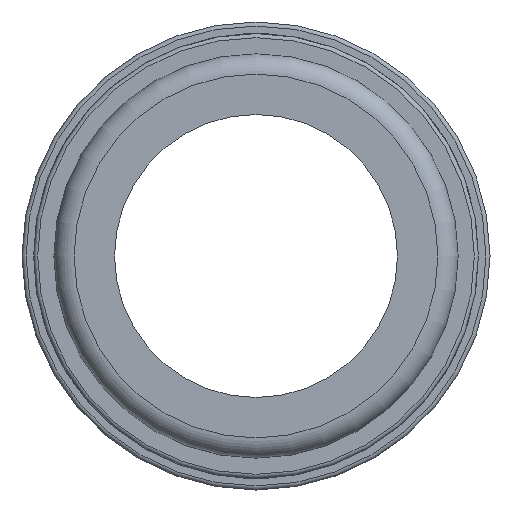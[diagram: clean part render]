
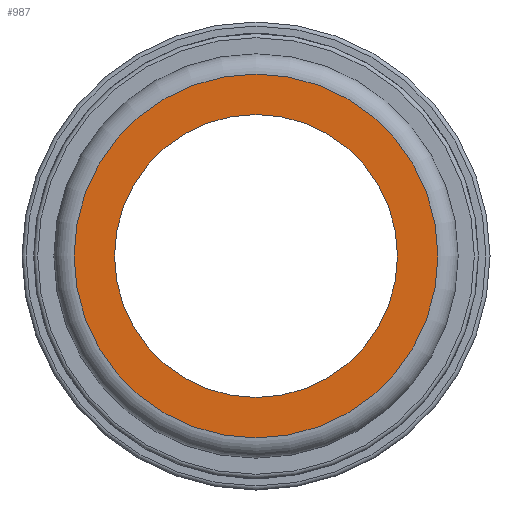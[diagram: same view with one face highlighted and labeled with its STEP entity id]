
A CAD part, left-side view. The second image highlights one B-rep face of the part: STEP entity #987.
In plain terms, the highlighted planar face has unit normal (-1, 0, 0).
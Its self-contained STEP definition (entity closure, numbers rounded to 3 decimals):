
#181=PLANE('',#1101);
#217=FACE_BOUND('',#343,.T.);
#273=FACE_OUTER_BOUND('',#342,.T.);
#342=EDGE_LOOP('',(#913));
#343=EDGE_LOOP('',(#914));
#402=CIRCLE('',#1099,26.826);
#404=CIRCLE('',#1102,20.865);
#500=VERTEX_POINT('',#1872);
#502=VERTEX_POINT('',#1877);
#640=EDGE_CURVE('',#500,#500,#402,.T.);
#642=EDGE_CURVE('',#502,#502,#404,.T.);
#913=ORIENTED_EDGE('',*,*,#640,.F.);
#914=ORIENTED_EDGE('',*,*,#642,.T.);
#987=ADVANCED_FACE('',(#273,#217),#181,.T.);
#1099=AXIS2_PLACEMENT_3D('',#1873,#1380,#1381);
#1101=AXIS2_PLACEMENT_3D('',#1876,#1384,#1385);
#1102=AXIS2_PLACEMENT_3D('',#1878,#1386,#1387);
#1380=DIRECTION('center_axis',(1.,0.,0.));
#1381=DIRECTION('ref_axis',(0.,-1.,0.));
#1384=DIRECTION('center_axis',(-1.,0.,0.));
#1385=DIRECTION('ref_axis',(0.,0.,1.));
#1386=DIRECTION('center_axis',(1.,0.,0.));
#1387=DIRECTION('ref_axis',(0.,0.,-1.));
#1872=CARTESIAN_POINT('',(-107.,26.826,0.));
#1873=CARTESIAN_POINT('Origin',(-107.,0.,0.));
#1876=CARTESIAN_POINT('Origin',(-107.,29.807,0.));
#1877=CARTESIAN_POINT('',(-107.,20.865,0.));
#1878=CARTESIAN_POINT('Origin',(-107.,0.,0.));
